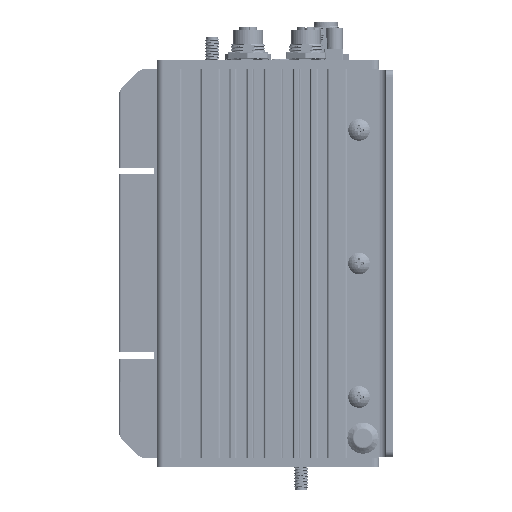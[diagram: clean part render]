
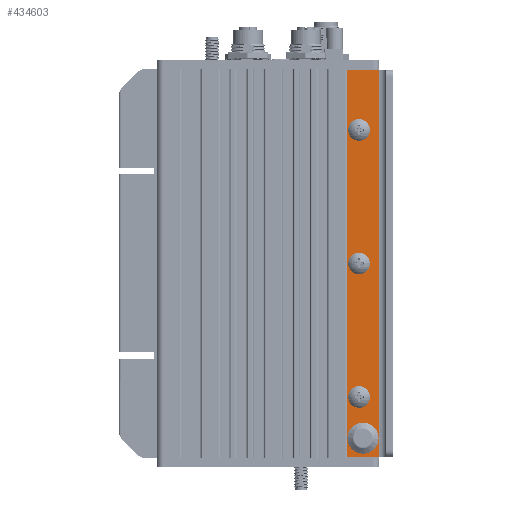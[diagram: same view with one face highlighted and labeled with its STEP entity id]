
A CAD part, left-side view. The second image highlights one B-rep face of the part: STEP entity #434603.
In plain terms, the highlighted planar face has unit normal (-1, 0, 0).
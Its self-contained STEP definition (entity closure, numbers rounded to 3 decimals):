
#192 = CARTESIAN_POINT ( 'NONE',  ( -146.582, -108., 0. ) ) ;
#5766 = AXIS2_PLACEMENT_3D ( 'NONE', #1159080, #375965, #6389 ) ;
#6389 = DIRECTION ( 'NONE',  ( 0., 0., 1. ) ) ;
#79110 = VERTEX_POINT ( 'NONE', #311043 ) ;
#79823 = DIRECTION ( 'NONE',  ( 0., 0., 1. ) ) ;
#87327 = VERTEX_POINT ( 'NONE', #497145 ) ;
#89349 = FACE_OUTER_BOUND ( 'NONE', #212072, .T. ) ;
#91624 = CIRCLE ( 'NONE', #1230546, 2.25 ) ;
#107153 = VERTEX_POINT ( 'NONE', #587990 ) ;
#108563 = DIRECTION ( 'NONE',  ( -1., 0., 0. ) ) ;
#110270 = DIRECTION ( 'NONE',  ( 0., 0., 1. ) ) ;
#114384 = EDGE_CURVE ( 'NONE', #405380, #907198, #485454, .T. ) ;
#115704 = CARTESIAN_POINT ( 'NONE',  ( -146.582, -109.75, -78.5 ) ) ;
#119953 = DIRECTION ( 'NONE',  ( 0., 1., 0. ) ) ;
#121694 = EDGE_LOOP ( 'NONE', ( #325314, #1152619 ) ) ;
#136872 = AXIS2_PLACEMENT_3D ( 'NONE', #856755, #1238756, #79823 ) ;
#138995 = CARTESIAN_POINT ( 'NONE',  ( -146.582, -103., 87. ) ) ;
#151107 = CARTESIAN_POINT ( 'NONE',  ( -146.582, -108., -2.25 ) ) ;
#151266 = ORIENTED_EDGE ( 'NONE', *, *, #680859, .F. ) ;
#179983 = ORIENTED_EDGE ( 'NONE', *, *, #307498, .T. ) ;
#193285 = DIRECTION ( 'NONE',  ( -1., 0., 0. ) ) ;
#205626 = EDGE_CURVE ( 'NONE', #107153, #1102149, #1191543, .T. ) ;
#212072 = EDGE_LOOP ( 'NONE', ( #679012, #358901, #625601, #295773, #845340, #179983 ) ) ;
#223367 = AXIS2_PLACEMENT_3D ( 'NONE', #796162, #108563, #1184488 ) ;
#227797 = CIRCLE ( 'NONE', #655105, 2.25 ) ;
#228376 = EDGE_CURVE ( 'NONE', #888356, #1124793, #442261, .T. ) ;
#229986 = DIRECTION ( 'NONE',  ( 0., 0., 1. ) ) ;
#249819 = CIRCLE ( 'NONE', #738062, 2.25 ) ;
#270566 = EDGE_LOOP ( 'NONE', ( #282025, #286374 ) ) ;
#282025 = ORIENTED_EDGE ( 'NONE', *, *, #860015, .F. ) ;
#286374 = ORIENTED_EDGE ( 'NONE', *, *, #1095917, .F. ) ;
#287481 = CARTESIAN_POINT ( 'NONE',  ( -146.582, -103., -86.5 ) ) ;
#289247 = DIRECTION ( 'NONE',  ( 0., 0., 1. ) ) ;
#295773 = ORIENTED_EDGE ( 'NONE', *, *, #616557, .T. ) ;
#297162 = AXIS2_PLACEMENT_3D ( 'NONE', #115704, #325596, #229986 ) ;
#307498 = EDGE_CURVE ( 'NONE', #514689, #570717, #916012, .T. ) ;
#311043 = CARTESIAN_POINT ( 'NONE',  ( -146.582, -102.5, -86.5 ) ) ;
#325314 = ORIENTED_EDGE ( 'NONE', *, *, #728033, .F. ) ;
#325596 = DIRECTION ( 'NONE',  ( -1., 0., 0. ) ) ;
#346048 = AXIS2_PLACEMENT_3D ( 'NONE', #1040507, #855790, #1148558 ) ;
#358901 = ORIENTED_EDGE ( 'NONE', *, *, #1258635, .T. ) ;
#359482 = AXIS2_PLACEMENT_3D ( 'NONE', #287481, #1045443, #370395 ) ;
#370395 = DIRECTION ( 'NONE',  ( 0., 0., 1. ) ) ;
#375965 = DIRECTION ( 'NONE',  ( -1., 0., 0. ) ) ;
#384774 = CARTESIAN_POINT ( 'NONE',  ( -146.582, -108., -60. ) ) ;
#388284 = DIRECTION ( 'NONE',  ( -1., 0., 0. ) ) ;
#405380 = VERTEX_POINT ( 'NONE', #929239 ) ;
#412769 = CARTESIAN_POINT ( 'NONE',  ( -146.582, -102.5, 87. ) ) ;
#419074 = LINE ( 'NONE', #412769, #901817 ) ;
#419398 = DIRECTION ( 'NONE',  ( 0., 0., 1. ) ) ;
#434603 = ADVANCED_FACE ( 'NONE', ( #758159, #1063588, #764442, #477778, #89349 ), #1248236, .T. ) ;
#439061 = DIRECTION ( 'NONE',  ( -1., 0., 0. ) ) ;
#440311 = CIRCLE ( 'NONE', #359482, 0.5 ) ;
#442261 = CIRCLE ( 'NONE', #136872, 2.25 ) ;
#451828 = ORIENTED_EDGE ( 'NONE', *, *, #205626, .F. ) ;
#453604 = CARTESIAN_POINT ( 'NONE',  ( -146.582, -108., 57.75 ) ) ;
#458678 = DIRECTION ( 'NONE',  ( 0., 0., -1. ) ) ;
#468893 = EDGE_CURVE ( 'NONE', #1124793, #888356, #227797, .T. ) ;
#477778 = FACE_BOUND ( 'NONE', #1130431, .T. ) ;
#485454 = CIRCLE ( 'NONE', #648188, 2.25 ) ;
#497145 = CARTESIAN_POINT ( 'NONE',  ( -146.582, -108., 2.25 ) ) ;
#508684 = CARTESIAN_POINT ( 'NONE',  ( -146.582, -117., -87. ) ) ;
#514689 = VERTEX_POINT ( 'NONE', #1146165 ) ;
#526502 = DIRECTION ( 'NONE',  ( -1., 0., 0. ) ) ;
#557048 = DIRECTION ( 'NONE',  ( -1., 0., 0. ) ) ;
#570717 = VERTEX_POINT ( 'NONE', #1063874 ) ;
#578042 = VERTEX_POINT ( 'NONE', #1181263 ) ;
#578121 = CARTESIAN_POINT ( 'NONE',  ( -146.582, -102.5, -87. ) ) ;
#587990 = CARTESIAN_POINT ( 'NONE',  ( -146.582, -109.75, -74. ) ) ;
#594014 = VERTEX_POINT ( 'NONE', #138995 ) ;
#616557 = EDGE_CURVE ( 'NONE', #79110, #578042, #440311, .T. ) ;
#617378 = ORIENTED_EDGE ( 'NONE', *, *, #468893, .F. ) ;
#625601 = ORIENTED_EDGE ( 'NONE', *, *, #820062, .T. ) ;
#630591 = CIRCLE ( 'NONE', #346048, 4.5 ) ;
#648188 = AXIS2_PLACEMENT_3D ( 'NONE', #1158856, #388284, #1146248 ) ;
#655105 = AXIS2_PLACEMENT_3D ( 'NONE', #929392, #439061, #827548 ) ;
#667479 = DIRECTION ( 'NONE',  ( 0., -1., 0. ) ) ;
#679012 = ORIENTED_EDGE ( 'NONE', *, *, #1004582, .T. ) ;
#680859 = EDGE_CURVE ( 'NONE', #1102149, #107153, #630591, .T. ) ;
#696137 = CARTESIAN_POINT ( 'NONE',  ( -146.582, -108., 0. ) ) ;
#703001 = VECTOR ( 'NONE', #419398, 1000. ) ;
#728033 = EDGE_CURVE ( 'NONE', #907198, #405380, #91624, .T. ) ;
#738062 = AXIS2_PLACEMENT_3D ( 'NONE', #192, #526502, #902398 ) ;
#757871 = LINE ( 'NONE', #1146189, #1123861 ) ;
#758159 = FACE_BOUND ( 'NONE', #1092082, .T. ) ;
#764442 = FACE_BOUND ( 'NONE', #270566, .T. ) ;
#774702 = EDGE_CURVE ( 'NONE', #578042, #514689, #1151248, .T. ) ;
#786488 = VECTOR ( 'NONE', #667479, 1000. ) ;
#796162 = CARTESIAN_POINT ( 'NONE',  ( -146.582, -103., 86.5 ) ) ;
#804599 = ORIENTED_EDGE ( 'NONE', *, *, #228376, .F. ) ;
#820062 = EDGE_CURVE ( 'NONE', #1212929, #79110, #757871, .T. ) ;
#823188 = CARTESIAN_POINT ( 'NONE',  ( -146.582, -109.75, -83. ) ) ;
#827548 = DIRECTION ( 'NONE',  ( 0., 0., 1. ) ) ;
#845340 = ORIENTED_EDGE ( 'NONE', *, *, #774702, .T. ) ;
#855790 = DIRECTION ( 'NONE',  ( -1., 0., 0. ) ) ;
#856755 = CARTESIAN_POINT ( 'NONE',  ( -146.582, -108., 60. ) ) ;
#860015 = EDGE_CURVE ( 'NONE', #87327, #962692, #1106535, .T. ) ;
#863027 = AXIS2_PLACEMENT_3D ( 'NONE', #696137, #193285, #110270 ) ;
#888356 = VERTEX_POINT ( 'NONE', #453604 ) ;
#901817 = VECTOR ( 'NONE', #119953, 1000. ) ;
#902398 = DIRECTION ( 'NONE',  ( 0., 0., 1. ) ) ;
#907198 = VERTEX_POINT ( 'NONE', #1088481 ) ;
#916012 = LINE ( 'NONE', #508684, #703001 ) ;
#919752 = CARTESIAN_POINT ( 'NONE',  ( -146.582, -108., 62.25 ) ) ;
#929239 = CARTESIAN_POINT ( 'NONE',  ( -146.582, -108., -62.25 ) ) ;
#929392 = CARTESIAN_POINT ( 'NONE',  ( -146.582, -108., 60. ) ) ;
#940891 = CARTESIAN_POINT ( 'NONE',  ( -146.582, -102.5, 86.5 ) ) ;
#962692 = VERTEX_POINT ( 'NONE', #151107 ) ;
#1004582 = EDGE_CURVE ( 'NONE', #570717, #594014, #419074, .T. ) ;
#1040507 = CARTESIAN_POINT ( 'NONE',  ( -146.582, -109.75, -78.5 ) ) ;
#1045443 = DIRECTION ( 'NONE',  ( -1., 0., 0. ) ) ;
#1063588 = FACE_BOUND ( 'NONE', #121694, .T. ) ;
#1063874 = CARTESIAN_POINT ( 'NONE',  ( -146.582, -117., 87. ) ) ;
#1088481 = CARTESIAN_POINT ( 'NONE',  ( -146.582, -108., -57.75 ) ) ;
#1092082 = EDGE_LOOP ( 'NONE', ( #451828, #151266 ) ) ;
#1095917 = EDGE_CURVE ( 'NONE', #962692, #87327, #249819, .T. ) ;
#1102149 = VERTEX_POINT ( 'NONE', #823188 ) ;
#1106535 = CIRCLE ( 'NONE', #863027, 2.25 ) ;
#1123861 = VECTOR ( 'NONE', #458678, 1000. ) ;
#1124793 = VERTEX_POINT ( 'NONE', #919752 ) ;
#1130431 = EDGE_LOOP ( 'NONE', ( #617378, #804599 ) ) ;
#1146165 = CARTESIAN_POINT ( 'NONE',  ( -146.582, -117., -87. ) ) ;
#1146189 = CARTESIAN_POINT ( 'NONE',  ( -146.582, -102.5, -87. ) ) ;
#1146248 = DIRECTION ( 'NONE',  ( 0., 0., 1. ) ) ;
#1148558 = DIRECTION ( 'NONE',  ( 0., 0., 1. ) ) ;
#1151248 = LINE ( 'NONE', #578121, #786488 ) ;
#1152619 = ORIENTED_EDGE ( 'NONE', *, *, #114384, .F. ) ;
#1158757 = CIRCLE ( 'NONE', #223367, 0.5 ) ;
#1158856 = CARTESIAN_POINT ( 'NONE',  ( -146.582, -108., -60. ) ) ;
#1159080 = CARTESIAN_POINT ( 'NONE',  ( -146.582, -109.75, 0. ) ) ;
#1181263 = CARTESIAN_POINT ( 'NONE',  ( -146.582, -103., -87. ) ) ;
#1184488 = DIRECTION ( 'NONE',  ( 0., 0., 1. ) ) ;
#1191543 = CIRCLE ( 'NONE', #297162, 4.5 ) ;
#1212929 = VERTEX_POINT ( 'NONE', #940891 ) ;
#1230546 = AXIS2_PLACEMENT_3D ( 'NONE', #384774, #557048, #289247 ) ;
#1238756 = DIRECTION ( 'NONE',  ( -1., 0., 0. ) ) ;
#1248236 = PLANE ( 'NONE',  #5766 ) ;
#1258635 = EDGE_CURVE ( 'NONE', #594014, #1212929, #1158757, .T. ) ;
